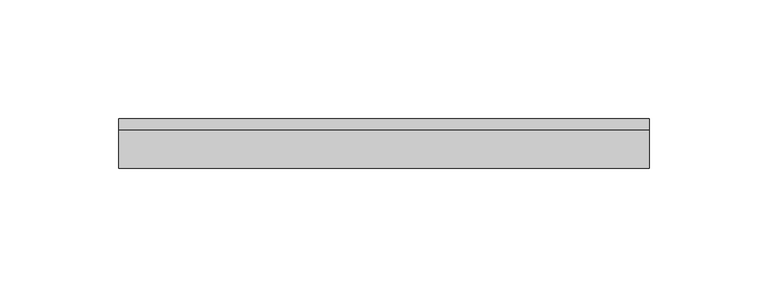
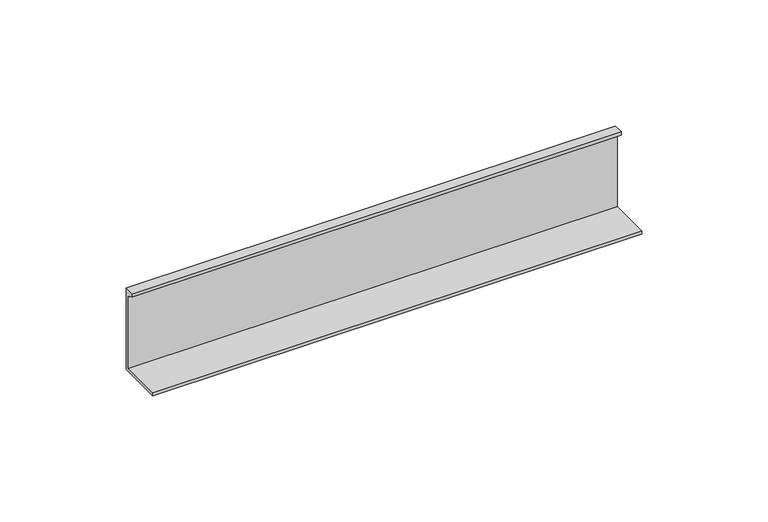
"""IFC4 building model written with IfcOpenShell, lengths in millimetres: proxy geometry, HAFELE 106.04.06-3 FINISHES."""

from ifc_helpers import new_model, si_unit, frame, origin, place, context, project, spatial, polyline, outline, extrude, source, transform, mapped, element, save


def generic_models_aee5ed7d(model_context):
    return source(origin(), model_context, "Body", "SweptSolid", [
        extrude(outline(polyline([(-1.499997, 0.0), (-1.499997, 34.925), (-4.674997, 36.5125), (-4.674997, 38.1), (0.0, 38.1), (0.0, -1.499997), (-20.999997, -1.499997), (-20.999997, 0.0), (-1.499997, 0.0)])), frame((0.0, 0.0, 0.0), z_axis=(1.0, 0.0, 0.0), x_axis=(0.0, 1.0, 0.0)), (0.0, 0.0, 1.0), 224.0026),
    ])


if __name__ == "__main__":
    model = new_model("IFC4")
    model_context = context("Model", 3, world=origin())
    ifc_project = project(units=[si_unit("LENGTHUNIT", "METRE", prefix="MILLI")], contexts=[model_context])
    site = spatial("IfcSite", under=ifc_project)
    building = spatial("IfcBuilding", under=site)
    placement = place(None, origin())
    generic_models_shape = generic_models_aee5ed7d(model_context)
    element("IfcBuildingElementProxy", 1, Name="HAFELE 106.04.06-3 FINISHES", ObjectType="HAFELE 106.04.06-3 FINISHES", at=placement, inside=building, context=model_context, shape_type="MappedRepresentation", body=[
        mapped(generic_models_shape, transform((0.0, 0.0, 0.0), x_axis=(1.0, 0.0, 0.0), y_axis=(0.0, 1.0, 0.0), z_axis=(0.0, 0.0, 1.0))),
    ])
    save(model, "model.ifc")
